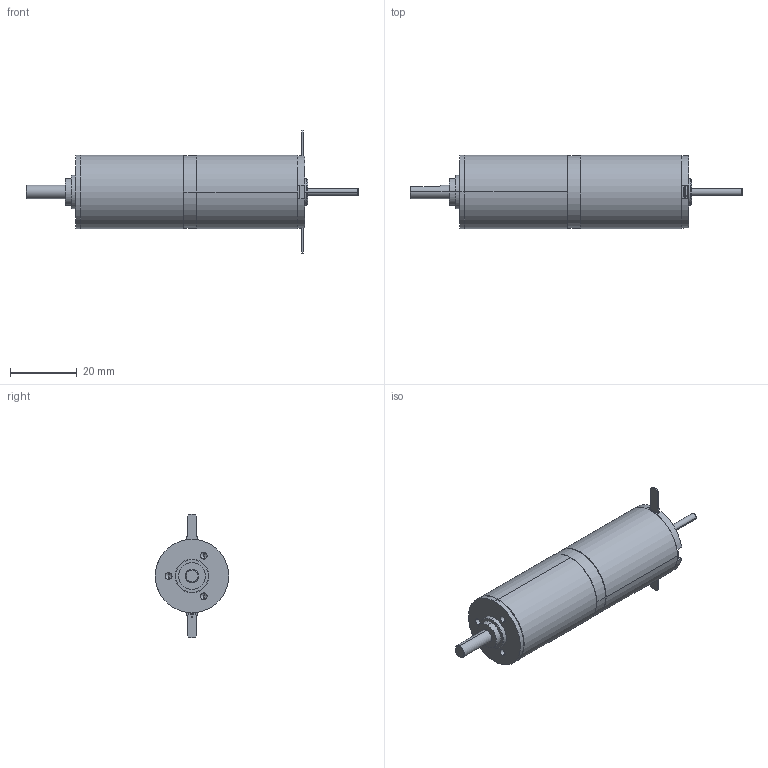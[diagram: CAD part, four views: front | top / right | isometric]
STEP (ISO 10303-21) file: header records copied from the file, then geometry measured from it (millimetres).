
FILE_DESCRIPTION (( 'STEP AP214' ), '1' );
FILE_NAME ('DCX22S_+_GP022C-2ETAGES.STEP', '2013-12-17T09:12:26', ( '' ), ( '' ), 'SwSTEP 2.0', 'SolidWorks 2013', '' );
FILE_SCHEMA (( 'AUTOMOTIVE_DESIGN' ));
Length unit declared in the file: millimetre
Products named in the file (3): DCX22S_+_GP022C-2ETAGES; GP022C_Etage 2; DCX22S GB KL
Assembly tree (2 placements, depth 2):
  DCX22S_+_GP022C-2ETAGES
    GP022C_Etage 2
    DCX22S GB KL
Bounding box: 99.4 x 22 x 36.9 mm (x, y, z)
Volume: 9684.3 mm3; surface area: 8799.7 mm2
Topology: 1 solids, 52 shells, 300 faces, 1041 edges, 773 vertices
Faces by surface type: plane 102, cylinder 100, cone 89, bspline 9
Entity records: 14873 total; most frequent: CARTESIAN_POINT 2688, DIRECTION 2088, ORIENTED_EDGE 1531, EDGE_CURVE 1035, AXIS2_PLACEMENT_3D 793, VERTEX_POINT 773, LINE 502, VECTOR 502
